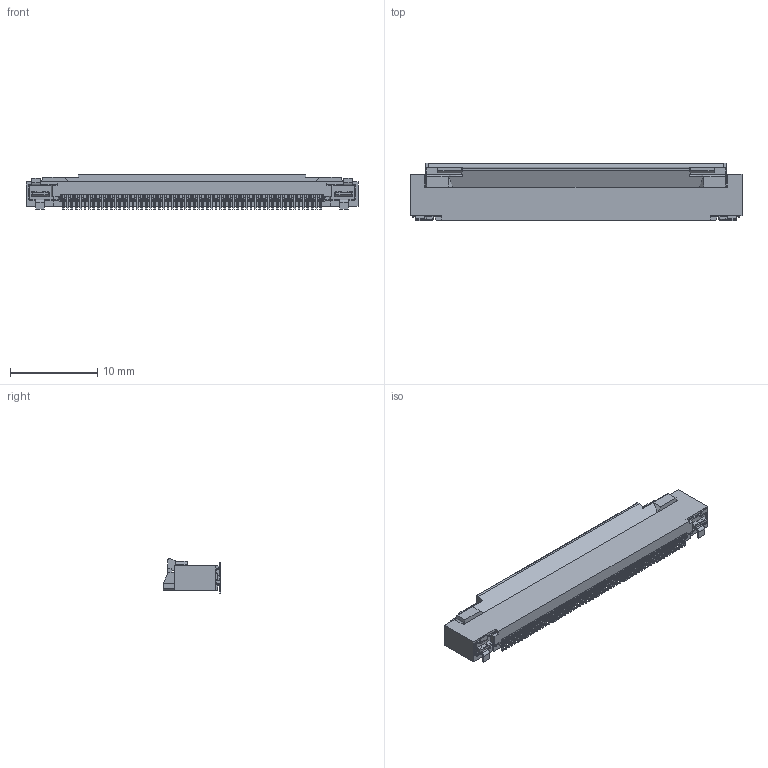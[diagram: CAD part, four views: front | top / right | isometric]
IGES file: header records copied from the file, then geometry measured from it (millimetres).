
Start section: SolidWorks IGES file using analytic representation for surfaces
Global section: file name: C:\Users\ieng2-006\Desktop\WORKING\nakamura\GVT 3D儌僨儖嶌惉\GVT IGES\20799-060E-01 IGES R6 ALL.IGS; native system: SolidWorks 2017; preprocessor: SolidWorks 2017; author: ieng2-006; date: 190328.163548; units: millimetre
Bounding box: 38 x 6.6 x 3.9 mm (x, y, z)
Surface area: 896.1 mm2 (no closed solid volume)
Topology: 0 solids, 0 shells, 1659 faces, 10129 edges, 10129 vertices
Faces by surface type: bspline 1384, revolution 275
